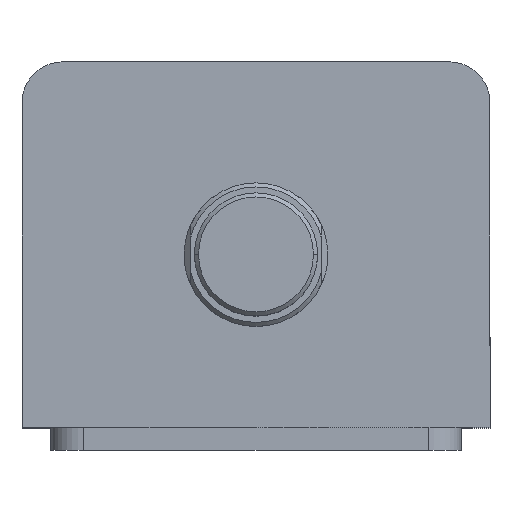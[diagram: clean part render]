
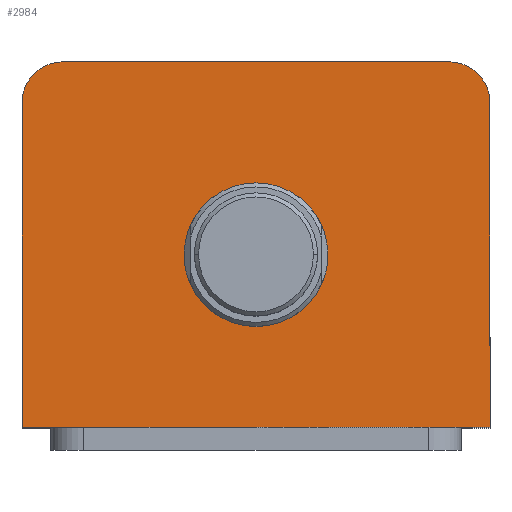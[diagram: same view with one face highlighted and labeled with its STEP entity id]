
A CAD part, top view. The second image highlights one B-rep face of the part: STEP entity #2984.
In plain terms, the highlighted planar face has unit normal (0, 0, 1).
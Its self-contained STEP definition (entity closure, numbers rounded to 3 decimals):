
#1 = DIRECTION ( 'NONE',  ( 1., 0., 0. ) ) ;
#114 = CARTESIAN_POINT ( 'NONE',  ( -57., -44.5, 142. ) ) ;
#115 = DIRECTION ( 'NONE',  ( 1., 0., 0. ) ) ;
#167 = CARTESIAN_POINT ( 'NONE',  ( 0., -2.5, 142. ) ) ;
#168 = DIRECTION ( 'NONE',  ( 0., 0., 1. ) ) ;
#169 = DIRECTION ( 'NONE',  ( 1., 0., 0. ) ) ;
#260 = VECTOR ( 'NONE', #115, 1000. ) ;
#261 = LINE ( 'NONE', #114, #260 ) ;
#421 = LINE ( 'NONE', #744, #426 ) ;
#426 = VECTOR ( 'NONE', #748, 1000. ) ;
#483 = CIRCLE ( 'NONE', #3472, 17.5 ) ;
#499 = LINE ( 'NONE', #562, #502 ) ;
#502 = VECTOR ( 'NONE', #563, 1000. ) ;
#503 = CIRCLE ( 'NONE', #3466, 10. ) ;
#543 = CARTESIAN_POINT ( 'NONE',  ( 0., -2.5, 142. ) ) ;
#544 = DIRECTION ( 'NONE',  ( 0., 0., 1. ) ) ;
#545 = DIRECTION ( 'NONE',  ( 1., 0., 0. ) ) ;
#562 = CARTESIAN_POINT ( 'NONE',  ( -57., 44.5, 142. ) ) ;
#563 = DIRECTION ( 'NONE',  ( -1., 0., 0. ) ) ;
#571 = CARTESIAN_POINT ( 'NONE',  ( 47., 34.5, 142. ) ) ;
#572 = DIRECTION ( 'NONE',  ( 0., 0., 1. ) ) ;
#573 = DIRECTION ( 'NONE',  ( 1., 0., 0. ) ) ;
#689 = CARTESIAN_POINT ( 'NONE',  ( -57., 44.5, 142. ) ) ;
#690 = DIRECTION ( 'NONE',  ( 0., -1., 0. ) ) ;
#744 = CARTESIAN_POINT ( 'NONE',  ( 57., 44.5, 142. ) ) ;
#748 = DIRECTION ( 'NONE',  ( 0., 1., 0. ) ) ;
#824 = CIRCLE ( 'NONE', #3604, 10. ) ;
#834 = LINE ( 'NONE', #689, #838 ) ;
#838 = VECTOR ( 'NONE', #690, 1000. ) ;
#963 = CIRCLE ( 'NONE', #3575, 17.5 ) ;
#1137 = VERTEX_POINT ( 'NONE', #2489 ) ;
#1141 = EDGE_CURVE ( 'NONE', #2340, #2348, #824, .T. ) ;
#1145 = EDGE_CURVE ( 'NONE', #2348, #2646, #834, .T. ) ;
#1211 = EDGE_CURVE ( 'NONE', #1137, #2647, #963, .T. ) ;
#1212 = VERTEX_POINT ( 'NONE', #2054 ) ;
#1632 = ORIENTED_EDGE ( 'NONE', *, *, #1211, .F. ) ;
#1633 = ORIENTED_EDGE ( 'NONE', *, *, #3773, .F. ) ;
#1634 = ORIENTED_EDGE ( 'NONE', *, *, #3781, .T. ) ;
#1635 = ORIENTED_EDGE ( 'NONE', *, *, #1141, .T. ) ;
#1636 = ORIENTED_EDGE ( 'NONE', *, *, #1145, .T. ) ;
#1637 = ORIENTED_EDGE ( 'NONE', *, *, #3294, .T. ) ;
#1638 = ORIENTED_EDGE ( 'NONE', *, *, #3727, .T. ) ;
#1639 = ORIENTED_EDGE ( 'NONE', *, *, #3783, .T. ) ;
#1735 = EDGE_LOOP ( 'NONE', ( #1632, #1633 ) ) ;
#1738 = EDGE_LOOP ( 'NONE', ( #1634, #1635, #1636, #1637, #1638, #1639 ) ) ;
#2001 = CARTESIAN_POINT ( 'NONE',  ( 0., 0., 142. ) ) ;
#2005 = PLANE ( 'NONE',  #3231 ) ;
#2054 = CARTESIAN_POINT ( 'NONE',  ( 57., -44.5, 142. ) ) ;
#2325 = VERTEX_POINT ( 'NONE', #2825 ) ;
#2337 = VERTEX_POINT ( 'NONE', #2837 ) ;
#2340 = VERTEX_POINT ( 'NONE', #2840 ) ;
#2348 = VERTEX_POINT ( 'NONE', #2848 ) ;
#2489 = CARTESIAN_POINT ( 'NONE',  ( 17.5, -2.5, 142. ) ) ;
#2506 = CARTESIAN_POINT ( 'NONE',  ( -47., 34.5, 142. ) ) ;
#2507 = DIRECTION ( 'NONE',  ( 0., 0., 1. ) ) ;
#2508 = DIRECTION ( 'NONE',  ( 1., 0., 0. ) ) ;
#2640 = DIRECTION ( 'NONE',  ( 0., 0., 1. ) ) ;
#2646 = VERTEX_POINT ( 'NONE', #2885 ) ;
#2647 = VERTEX_POINT ( 'NONE', #2882 ) ;
#2777 = FACE_BOUND ( 'NONE', #1735, .T. ) ;
#2785 = FACE_OUTER_BOUND ( 'NONE', #1738, .T. ) ;
#2825 = CARTESIAN_POINT ( 'NONE',  ( 57., 34.5, 142. ) ) ;
#2837 = CARTESIAN_POINT ( 'NONE',  ( 47., 44.5, 142. ) ) ;
#2840 = CARTESIAN_POINT ( 'NONE',  ( -47., 44.5, 142. ) ) ;
#2848 = CARTESIAN_POINT ( 'NONE',  ( -57., 34.5, 142. ) ) ;
#2882 = CARTESIAN_POINT ( 'NONE',  ( -17.5, -2.5, 142. ) ) ;
#2885 = CARTESIAN_POINT ( 'NONE',  ( -57., -44.5, 142. ) ) ;
#2984 = ADVANCED_FACE ( 'NONE', ( #2777, #2785 ), #2005, .T. ) ;
#3231 = AXIS2_PLACEMENT_3D ( 'NONE', #2001, #2640, #1 ) ;
#3294 = EDGE_CURVE ( 'NONE', #2646, #1212, #261, .T. ) ;
#3466 = AXIS2_PLACEMENT_3D ( 'NONE', #571, #572, #573 ) ;
#3472 = AXIS2_PLACEMENT_3D ( 'NONE', #543, #544, #545 ) ;
#3575 = AXIS2_PLACEMENT_3D ( 'NONE', #167, #168, #169 ) ;
#3604 = AXIS2_PLACEMENT_3D ( 'NONE', #2506, #2507, #2508 ) ;
#3727 = EDGE_CURVE ( 'NONE', #1212, #2325, #421, .T. ) ;
#3773 = EDGE_CURVE ( 'NONE', #2647, #1137, #483, .T. ) ;
#3781 = EDGE_CURVE ( 'NONE', #2337, #2340, #499, .T. ) ;
#3783 = EDGE_CURVE ( 'NONE', #2325, #2337, #503, .T. ) ;
